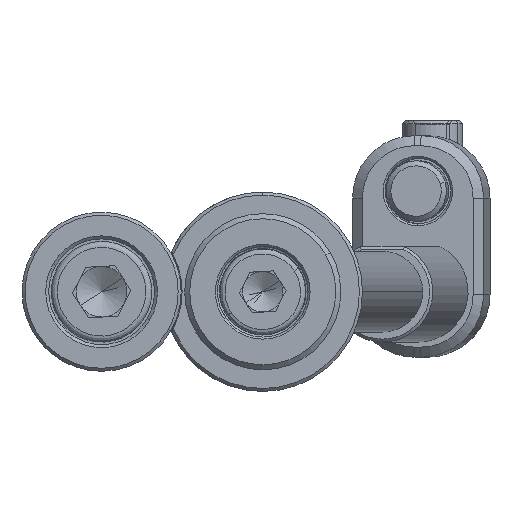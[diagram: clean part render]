
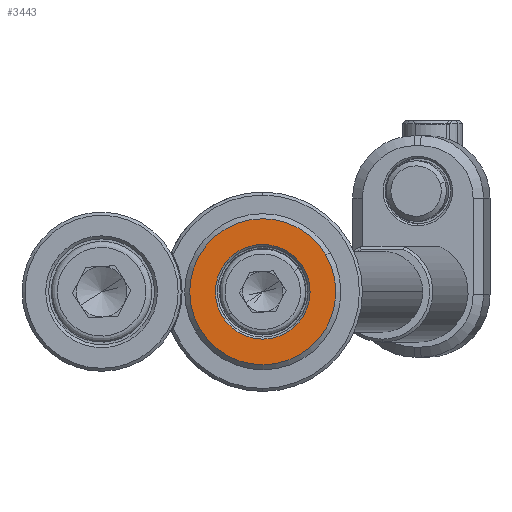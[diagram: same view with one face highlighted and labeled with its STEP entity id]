
A CAD part, front view. The second image highlights one B-rep face of the part: STEP entity #3443.
In plain terms, the highlighted planar face has unit normal (0, -1, 0).
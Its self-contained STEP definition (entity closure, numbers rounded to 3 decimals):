
#165 = CIRCLE ( 'NONE', #8183, 4.7 ) ;
#279 = CARTESIAN_POINT ( 'NONE',  ( 0., -4., 0. ) ) ;
#594 = CARTESIAN_POINT ( 'NONE',  ( 0., -4., 0. ) ) ;
#601 = DIRECTION ( 'NONE',  ( 0., -1., 0. ) ) ;
#638 = CARTESIAN_POINT ( 'NONE',  ( 0., -4., 0. ) ) ;
#1316 = EDGE_CURVE ( 'NONE', #5267, #7115, #11201, .T. ) ;
#1752 = AXIS2_PLACEMENT_3D ( 'NONE', #279, #6937, #13407 ) ;
#2920 = DIRECTION ( 'NONE',  ( 0., 1., 0. ) ) ;
#3362 = CIRCLE ( 'NONE', #1752, 7.25 ) ;
#3373 = EDGE_LOOP ( 'NONE', ( #4207, #10364 ) ) ;
#3443 = ADVANCED_FACE ( 'NONE', ( #8033, #7094 ), #13778, .F. ) ;
#3873 = AXIS2_PLACEMENT_3D ( 'NONE', #638, #6006, #10357 ) ;
#4207 = ORIENTED_EDGE ( 'NONE', *, *, #5942, .T. ) ;
#4957 = DIRECTION ( 'NONE',  ( 0., 1., 0. ) ) ;
#5267 = VERTEX_POINT ( 'NONE', #10832 ) ;
#5550 = CARTESIAN_POINT ( 'NONE',  ( -6.268, -4., -3.643 ) ) ;
#5942 = EDGE_CURVE ( 'NONE', #7325, #9394, #6916, .T. ) ;
#6006 = DIRECTION ( 'NONE',  ( 0., 1., 0. ) ) ;
#6637 = ORIENTED_EDGE ( 'NONE', *, *, #7167, .T. ) ;
#6916 = CIRCLE ( 'NONE', #13568, 7.25 ) ;
#6937 = DIRECTION ( 'NONE',  ( 0., -1., 0. ) ) ;
#7041 = CARTESIAN_POINT ( 'NONE',  ( 6.268, -4., 3.643 ) ) ;
#7094 = FACE_OUTER_BOUND ( 'NONE', #3373, .T. ) ;
#7115 = VERTEX_POINT ( 'NONE', #8736 ) ;
#7167 = EDGE_CURVE ( 'NONE', #7115, #5267, #165, .T. ) ;
#7222 = CARTESIAN_POINT ( 'NONE',  ( 2.261, -4., -3.891 ) ) ;
#7325 = VERTEX_POINT ( 'NONE', #5550 ) ;
#8002 = DIRECTION ( 'NONE',  ( -0.865, 0., -0.503 ) ) ;
#8033 = FACE_BOUND ( 'NONE', #10650, .T. ) ;
#8183 = AXIS2_PLACEMENT_3D ( 'NONE', #594, #4957, #11199 ) ;
#8539 = DIRECTION ( 'NONE',  ( -0.865, 0., -0.503 ) ) ;
#8736 = CARTESIAN_POINT ( 'NONE',  ( 4.063, -4., 2.362 ) ) ;
#9394 = VERTEX_POINT ( 'NONE', #7041 ) ;
#10357 = DIRECTION ( 'NONE',  ( -0.865, 0., -0.503 ) ) ;
#10364 = ORIENTED_EDGE ( 'NONE', *, *, #13343, .T. ) ;
#10650 = EDGE_LOOP ( 'NONE', ( #6637, #13060 ) ) ;
#10832 = CARTESIAN_POINT ( 'NONE',  ( -4.063, -4., -2.362 ) ) ;
#11199 = DIRECTION ( 'NONE',  ( -0.865, 0., -0.503 ) ) ;
#11201 = CIRCLE ( 'NONE', #3873, 4.7 ) ;
#11265 = CARTESIAN_POINT ( 'NONE',  ( 0., -4., 0. ) ) ;
#12276 = AXIS2_PLACEMENT_3D ( 'NONE', #7222, #2920, #8539 ) ;
#13060 = ORIENTED_EDGE ( 'NONE', *, *, #1316, .T. ) ;
#13343 = EDGE_CURVE ( 'NONE', #9394, #7325, #3362, .T. ) ;
#13407 = DIRECTION ( 'NONE',  ( -0.865, 0., -0.503 ) ) ;
#13568 = AXIS2_PLACEMENT_3D ( 'NONE', #11265, #601, #8002 ) ;
#13778 = PLANE ( 'NONE',  #12276 ) ;
